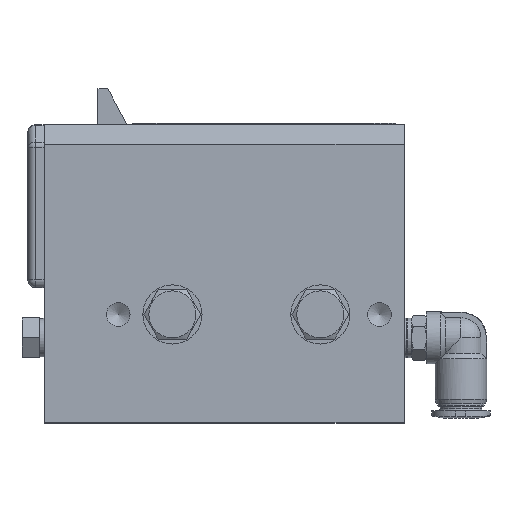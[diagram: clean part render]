
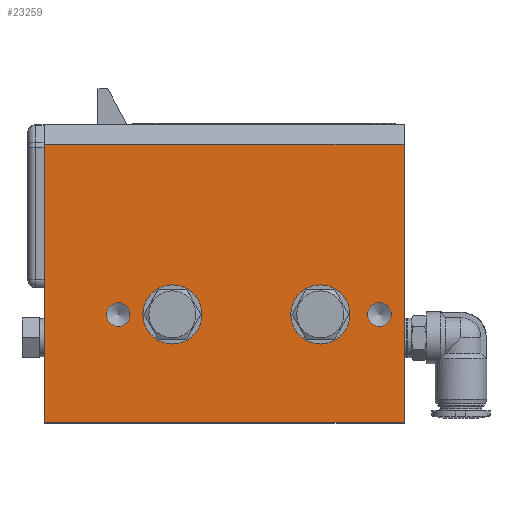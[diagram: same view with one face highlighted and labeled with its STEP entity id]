
A CAD part, top view. The second image highlights one B-rep face of the part: STEP entity #23259.
In plain terms, the highlighted planar face has unit normal (0, 0, 1).
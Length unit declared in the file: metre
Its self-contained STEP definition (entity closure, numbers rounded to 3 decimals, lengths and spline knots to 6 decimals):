
#232 = AXIS2_PLACEMENT_3D ( 'NONE', #8979, #22661, #11017 ) ;
#288 = CARTESIAN_POINT ( 'NONE',  ( -0.0109, -0.022, 0.0175 ) ) ;
#296 = FACE_BOUND ( 'NONE', #9311, .T. ) ;
#1008 = CARTESIAN_POINT ( 'NONE',  ( 0.0041, 0., 0.0175 ) ) ;
#1028 = AXIS2_PLACEMENT_3D ( 'NONE', #1008, #14712, #2983 ) ;
#1327 = CARTESIAN_POINT ( 'NONE',  ( 0.0621, -0.022, 0.0175 ) ) ;
#1525 = FACE_BOUND ( 'NONE', #19622, .T. ) ;
#1604 = CARTESIAN_POINT ( 'NONE',  ( -0.0109, -0.022, 0.0175 ) ) ;
#2482 = CARTESIAN_POINT ( 'NONE',  ( 0.0571, 0., 0.0175 ) ) ;
#2677 = EDGE_CURVE ( 'NONE', #14984, #13703, #10051, .T. ) ;
#2983 = DIRECTION ( 'NONE',  ( 1., 0., 0. ) ) ;
#3187 = AXIS2_PLACEMENT_3D ( 'NONE', #3339, #17007, #5317 ) ;
#3261 = EDGE_CURVE ( 'NONE', #16407, #16407, #16734, .T. ) ;
#3339 = CARTESIAN_POINT ( 'NONE',  ( 0.0151, 0., 0.0175 ) ) ;
#3588 = EDGE_CURVE ( 'NONE', #16897, #14984, #20707, .T. ) ;
#3600 = EDGE_CURVE ( 'NONE', #6025, #6025, #19838, .T. ) ;
#4364 = CARTESIAN_POINT ( 'NONE',  ( 0.0621, 0.0345, 0.0175 ) ) ;
#4468 = DIRECTION ( 'NONE',  ( 1., 0., 0. ) ) ;
#4890 = FACE_OUTER_BOUND ( 'NONE', #16761, .T. ) ;
#4895 = CARTESIAN_POINT ( 'NONE',  ( -0.0109, -0.022, 0.0175 ) ) ;
#4923 = CARTESIAN_POINT ( 'NONE',  ( 0.0621, -0.022, 0.0175 ) ) ;
#5317 = DIRECTION ( 'NONE',  ( 1., 0., 0. ) ) ;
#5345 = ORIENTED_EDGE ( 'NONE', *, *, #22254, .T. ) ;
#5588 = LINE ( 'NONE', #23535, #8009 ) ;
#5681 = AXIS2_PLACEMENT_3D ( 'NONE', #2482, #16170, #4468 ) ;
#5767 = ORIENTED_EDGE ( 'NONE', *, *, #3588, .T. ) ;
#5967 = DIRECTION ( 'NONE',  ( -1., 0., 0. ) ) ;
#6025 = VERTEX_POINT ( 'NONE', #13291 ) ;
#6452 = ORIENTED_EDGE ( 'NONE', *, *, #12146, .F. ) ;
#7191 = VERTEX_POINT ( 'NONE', #21512 ) ;
#7603 = EDGE_LOOP ( 'NONE', ( #22200 ) ) ;
#7939 = CIRCLE ( 'NONE', #5681, 0.0024 ) ;
#8009 = VECTOR ( 'NONE', #5967, 1. ) ;
#8399 = AXIS2_PLACEMENT_3D ( 'NONE', #22788, #11224, #24808 ) ;
#8759 = DIRECTION ( 'NONE',  ( 0., -1., 0. ) ) ;
#8979 = CARTESIAN_POINT ( 'NONE',  ( 0.0451, 0., 0.0175 ) ) ;
#9311 = EDGE_LOOP ( 'NONE', ( #12616 ) ) ;
#9362 = DIRECTION ( 'NONE',  ( 1., 0., 0. ) ) ;
#10005 = VECTOR ( 'NONE', #9362, 1. ) ;
#10051 = LINE ( 'NONE', #1604, #10005 ) ;
#10092 = FACE_BOUND ( 'NONE', #7603, .T. ) ;
#11017 = DIRECTION ( 'NONE',  ( 1., 0., 0. ) ) ;
#11224 = DIRECTION ( 'NONE',  ( 0., 0., -1. ) ) ;
#11320 = CARTESIAN_POINT ( 'NONE',  ( 0.0482, 0., 0.0175 ) ) ;
#12146 = EDGE_CURVE ( 'NONE', #17324, #17324, #7939, .T. ) ;
#12616 = ORIENTED_EDGE ( 'NONE', *, *, #23250, .F. ) ;
#13112 = PLANE ( 'NONE',  #8399 ) ;
#13291 = CARTESIAN_POINT ( 'NONE',  ( 0.0065, 0., 0.0175 ) ) ;
#13703 = VERTEX_POINT ( 'NONE', #1327 ) ;
#14712 = DIRECTION ( 'NONE',  ( 0., 0., 1. ) ) ;
#14984 = VERTEX_POINT ( 'NONE', #288 ) ;
#15137 = CARTESIAN_POINT ( 'NONE',  ( -0.0109, 0.0345, 0.0175 ) ) ;
#15294 = FACE_BOUND ( 'NONE', #22809, .T. ) ;
#16170 = DIRECTION ( 'NONE',  ( 0., 0., 1. ) ) ;
#16213 = ORIENTED_EDGE ( 'NONE', *, *, #3600, .F. ) ;
#16407 = VERTEX_POINT ( 'NONE', #11320 ) ;
#16734 = CIRCLE ( 'NONE', #232, 0.0031 ) ;
#16761 = EDGE_LOOP ( 'NONE', ( #21452, #5345, #5767, #21041 ) ) ;
#16897 = VERTEX_POINT ( 'NONE', #15137 ) ;
#16900 = LINE ( 'NONE', #4923, #17532 ) ;
#17007 = DIRECTION ( 'NONE',  ( 0., 0., 1. ) ) ;
#17174 = VERTEX_POINT ( 'NONE', #4364 ) ;
#17324 = VERTEX_POINT ( 'NONE', #19315 ) ;
#17532 = VECTOR ( 'NONE', #22391, 1. ) ;
#19315 = CARTESIAN_POINT ( 'NONE',  ( 0.0595, 0., 0.0175 ) ) ;
#19622 = EDGE_LOOP ( 'NONE', ( #6452 ) ) ;
#19838 = CIRCLE ( 'NONE', #1028, 0.0024 ) ;
#20707 = LINE ( 'NONE', #4895, #20759 ) ;
#20759 = VECTOR ( 'NONE', #8759, 1. ) ;
#21041 = ORIENTED_EDGE ( 'NONE', *, *, #2677, .T. ) ;
#21079 = CIRCLE ( 'NONE', #3187, 0.0031 ) ;
#21452 = ORIENTED_EDGE ( 'NONE', *, *, #22578, .T. ) ;
#21512 = CARTESIAN_POINT ( 'NONE',  ( 0.0182, 0., 0.0175 ) ) ;
#22200 = ORIENTED_EDGE ( 'NONE', *, *, #3261, .F. ) ;
#22254 = EDGE_CURVE ( 'NONE', #17174, #16897, #5588, .T. ) ;
#22391 = DIRECTION ( 'NONE',  ( 0., 1., 0. ) ) ;
#22578 = EDGE_CURVE ( 'NONE', #13703, #17174, #16900, .T. ) ;
#22661 = DIRECTION ( 'NONE',  ( 0., 0., 1. ) ) ;
#22788 = CARTESIAN_POINT ( 'NONE',  ( -0.0109, 0.0385, 0.0175 ) ) ;
#22809 = EDGE_LOOP ( 'NONE', ( #16213 ) ) ;
#23250 = EDGE_CURVE ( 'NONE', #7191, #7191, #21079, .T. ) ;
#23259 = ADVANCED_FACE ( 'NONE', ( #15294, #1525, #296, #10092, #4890 ), #13112, .F. ) ;
#23535 = CARTESIAN_POINT ( 'NONE',  ( -0.0109, 0.0345, 0.0175 ) ) ;
#24808 = DIRECTION ( 'NONE',  ( -1., 0., 0. ) ) ;
